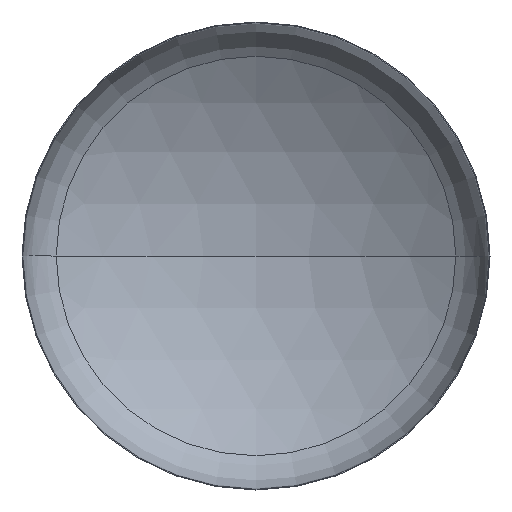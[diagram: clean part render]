
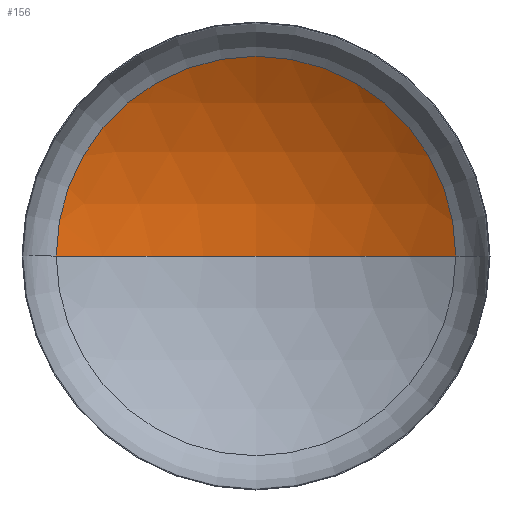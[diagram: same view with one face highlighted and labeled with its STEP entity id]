
A CAD part, front view. The second image highlights one B-rep face of the part: STEP entity #156.
In plain terms, the highlighted spherical face has radius 3200 mm.
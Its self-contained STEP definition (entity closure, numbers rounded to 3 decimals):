
#22 = AXIS2_PLACEMENT_3D ( 'NONE', #167, #236, #398 ) ;
#23 = AXIS2_PLACEMENT_3D ( 'NONE', #160, #163, #197 ) ;
#29 = EDGE_LOOP ( 'NONE', ( #361, #123, #44 ) ) ;
#34 = AXIS2_PLACEMENT_3D ( 'NONE', #121, #159, #144 ) ;
#44 = ORIENTED_EDGE ( 'NONE', *, *, #334, .T. ) ;
#57 = AXIS2_PLACEMENT_3D ( 'NONE', #335, #204, #184 ) ;
#104 = VERTEX_POINT ( 'NONE', #287 ) ;
#112 = VERTEX_POINT ( 'NONE', #291 ) ;
#117 = VERTEX_POINT ( 'NONE', #295 ) ;
#121 = CARTESIAN_POINT ( 'NONE',  ( 0., 540.182, 0. ) ) ;
#123 = ORIENTED_EDGE ( 'NONE', *, *, #343, .T. ) ;
#144 = DIRECTION ( 'NONE',  ( 1., 0., 0. ) ) ;
#156 = ADVANCED_FACE ( 'NONE', ( #211 ), #266, .F. ) ;
#159 = DIRECTION ( 'NONE',  ( 0., -1., 0. ) ) ;
#160 = CARTESIAN_POINT ( 'NONE',  ( 0., -2166.455, 0. ) ) ;
#163 = DIRECTION ( 'NONE',  ( 0., 0., -1. ) ) ;
#167 = CARTESIAN_POINT ( 'NONE',  ( 0., -2166.455, 0. ) ) ;
#184 = DIRECTION ( 'NONE',  ( -1., 0., 0. ) ) ;
#191 = CIRCLE ( 'NONE', #34, 1707.079 ) ;
#197 = DIRECTION ( 'NONE',  ( -1., 0., 0. ) ) ;
#204 = DIRECTION ( 'NONE',  ( 0., 0., -1. ) ) ;
#211 = FACE_OUTER_BOUND ( 'NONE', #29, .T. ) ;
#234 = CIRCLE ( 'NONE', #22, 3200. ) ;
#236 = DIRECTION ( 'NONE',  ( 0., 0., 1. ) ) ;
#266 = SPHERICAL_SURFACE ( 'NONE', #57, 3200. ) ;
#287 = CARTESIAN_POINT ( 'NONE',  ( 1707.079, 540.182, 0. ) ) ;
#291 = CARTESIAN_POINT ( 'NONE',  ( 0., 1033.545, 0. ) ) ;
#295 = CARTESIAN_POINT ( 'NONE',  ( -1707.079, 540.182, 0. ) ) ;
#334 = EDGE_CURVE ( 'NONE', #104, #117, #191, .T. ) ;
#335 = CARTESIAN_POINT ( 'NONE',  ( 0., -2166.455, 0. ) ) ;
#343 = EDGE_CURVE ( 'NONE', #112, #104, #369, .T. ) ;
#345 = EDGE_CURVE ( 'NONE', #112, #117, #234, .T. ) ;
#361 = ORIENTED_EDGE ( 'NONE', *, *, #345, .F. ) ;
#369 = CIRCLE ( 'NONE', #23, 3200. ) ;
#398 = DIRECTION ( 'NONE',  ( 1., 0., 0. ) ) ;
